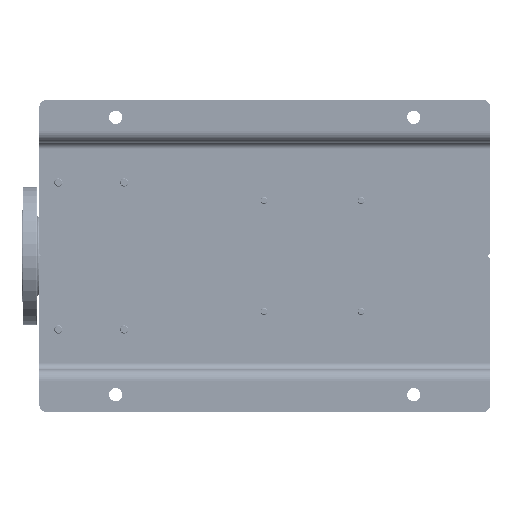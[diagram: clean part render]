
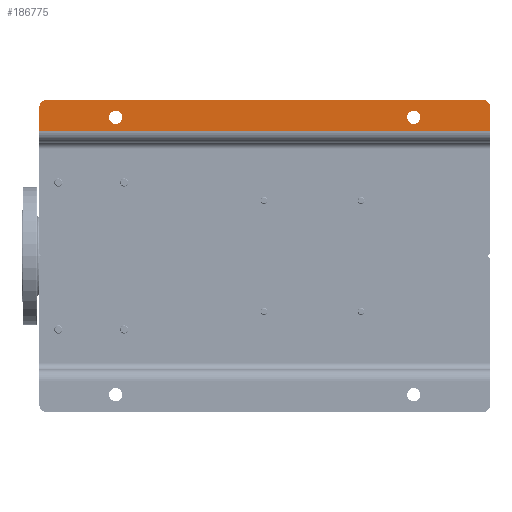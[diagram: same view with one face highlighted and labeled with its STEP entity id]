
A CAD part, front view. The second image highlights one B-rep face of the part: STEP entity #186775.
In plain terms, the highlighted planar face has unit normal (0, -1, 0).
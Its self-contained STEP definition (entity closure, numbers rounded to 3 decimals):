
#4269 = DIRECTION ( 'NONE',  ( 0., 0., -1. ) ) ;
#7001 = EDGE_CURVE ( 'NONE', #66714, #155749, #50495, .T. ) ;
#9170 = EDGE_CURVE ( 'NONE', #60250, #64917, #33362, .T. ) ;
#9893 = DIRECTION ( 'NONE',  ( 0., 0., -1. ) ) ;
#10768 = FACE_OUTER_BOUND ( 'NONE', #112691, .T. ) ;
#10806 = CARTESIAN_POINT ( 'NONE',  ( 415.5, 0., -540. ) ) ;
#23772 = AXIS2_PLACEMENT_3D ( 'NONE', #171543, #55525, #9893 ) ;
#31858 = DIRECTION ( 'NONE',  ( 0., 1., 0. ) ) ;
#32175 = VERTEX_POINT ( 'NONE', #50240 ) ;
#33362 = CIRCLE ( 'NONE', #57649, 9.5 ) ;
#37629 = DIRECTION ( 'NONE',  ( 0., 0., -1. ) ) ;
#39303 = FACE_BOUND ( 'NONE', #96990, .T. ) ;
#40249 = CARTESIAN_POINT ( 'NONE',  ( 389., 0., -650. ) ) ;
#41160 = ORIENTED_EDGE ( 'NONE', *, *, #83118, .T. ) ;
#44194 = CARTESIAN_POINT ( 'NONE',  ( 450., 0., -10. ) ) ;
#45635 = AXIS2_PLACEMENT_3D ( 'NONE', #78807, #149217, #178742 ) ;
#47140 = EDGE_CURVE ( 'NONE', #32175, #113569, #81013, .T. ) ;
#47772 = VERTEX_POINT ( 'NONE', #144804 ) ;
#48103 = ORIENTED_EDGE ( 'NONE', *, *, #87647, .T. ) ;
#50240 = CARTESIAN_POINT ( 'NONE',  ( 450., 0., -640. ) ) ;
#50495 = LINE ( 'NONE', #138868, #123989 ) ;
#50581 = DIRECTION ( 'NONE',  ( 0., 0., -1. ) ) ;
#50585 = LINE ( 'NONE', #123768, #76385 ) ;
#53089 = EDGE_CURVE ( 'NONE', #155749, #32175, #99669, .T. ) ;
#55525 = DIRECTION ( 'NONE',  ( 0., -1., 0. ) ) ;
#57649 = AXIS2_PLACEMENT_3D ( 'NONE', #123206, #92849, #37629 ) ;
#58408 = VERTEX_POINT ( 'NONE', #140196 ) ;
#60250 = VERTEX_POINT ( 'NONE', #10806 ) ;
#62694 = ORIENTED_EDGE ( 'NONE', *, *, #7001, .T. ) ;
#64917 = VERTEX_POINT ( 'NONE', #83151 ) ;
#66714 = VERTEX_POINT ( 'NONE', #102107 ) ;
#67715 = DIRECTION ( 'NONE',  ( 0., 0., 1. ) ) ;
#68762 = DIRECTION ( 'NONE',  ( 0., -1., 0. ) ) ;
#73449 = EDGE_LOOP ( 'NONE', ( #158694, #126876 ) ) ;
#76385 = VECTOR ( 'NONE', #137099, 1000. ) ;
#78193 = CARTESIAN_POINT ( 'NONE',  ( 425., 0., -110. ) ) ;
#78807 = CARTESIAN_POINT ( 'NONE',  ( 425., 0., -540. ) ) ;
#80061 = ORIENTED_EDGE ( 'NONE', *, *, #47140, .T. ) ;
#81013 = LINE ( 'NONE', #185633, #152725 ) ;
#83118 = EDGE_CURVE ( 'NONE', #47772, #87180, #123283, .T. ) ;
#83151 = CARTESIAN_POINT ( 'NONE',  ( 434.5, 0., -540. ) ) ;
#83343 = EDGE_CURVE ( 'NONE', #115931, #66714, #124686, .T. ) ;
#84184 = AXIS2_PLACEMENT_3D ( 'NONE', #145273, #144313, #88222 ) ;
#87180 = VERTEX_POINT ( 'NONE', #102946 ) ;
#87647 = EDGE_CURVE ( 'NONE', #113569, #58408, #99400, .T. ) ;
#87837 = CIRCLE ( 'NONE', #93942, 9.5 ) ;
#88222 = DIRECTION ( 'NONE',  ( 0., 0., -1. ) ) ;
#92849 = DIRECTION ( 'NONE',  ( 0., 1., 0. ) ) ;
#93692 = EDGE_CURVE ( 'NONE', #115931, #58408, #50585, .T. ) ;
#93942 = AXIS2_PLACEMENT_3D ( 'NONE', #175487, #31858, #4269 ) ;
#96021 = AXIS2_PLACEMENT_3D ( 'NONE', #78193, #120053, #50581 ) ;
#96990 = EDGE_LOOP ( 'NONE', ( #157593, #41160 ) ) ;
#99400 = CIRCLE ( 'NONE', #84184, 10. ) ;
#99669 = CIRCLE ( 'NONE', #23772, 10. ) ;
#102107 = CARTESIAN_POINT ( 'NONE',  ( 405., 0., -650. ) ) ;
#102946 = CARTESIAN_POINT ( 'NONE',  ( 415.5, 0., -110. ) ) ;
#106644 = DIRECTION ( 'NONE',  ( 1., 0., 0. ) ) ;
#109188 = CARTESIAN_POINT ( 'NONE',  ( 405., 0., 0. ) ) ;
#111089 = VECTOR ( 'NONE', #182761, 1000. ) ;
#112691 = EDGE_LOOP ( 'NONE', ( #155007, #133963, #62694, #127011, #80061, #48103 ) ) ;
#113270 = CARTESIAN_POINT ( 'NONE',  ( 405., 0., -650. ) ) ;
#113440 = DIRECTION ( 'NONE',  ( 0., 0., -1. ) ) ;
#113569 = VERTEX_POINT ( 'NONE', #44194 ) ;
#115931 = VERTEX_POINT ( 'NONE', #109188 ) ;
#120053 = DIRECTION ( 'NONE',  ( 0., 1., 0. ) ) ;
#123206 = CARTESIAN_POINT ( 'NONE',  ( 425., 0., -540. ) ) ;
#123283 = CIRCLE ( 'NONE', #96021, 9.5 ) ;
#123768 = CARTESIAN_POINT ( 'NONE',  ( 389., 0., 0. ) ) ;
#123989 = VECTOR ( 'NONE', #106644, 1000. ) ;
#124686 = LINE ( 'NONE', #113270, #111089 ) ;
#125692 = CARTESIAN_POINT ( 'NONE',  ( 440., 0., -650. ) ) ;
#126876 = ORIENTED_EDGE ( 'NONE', *, *, #182368, .T. ) ;
#127011 = ORIENTED_EDGE ( 'NONE', *, *, #53089, .T. ) ;
#128621 = FACE_BOUND ( 'NONE', #73449, .T. ) ;
#133963 = ORIENTED_EDGE ( 'NONE', *, *, #83343, .T. ) ;
#137099 = DIRECTION ( 'NONE',  ( 1., 0., 0. ) ) ;
#138868 = CARTESIAN_POINT ( 'NONE',  ( 389., 0., -650. ) ) ;
#140196 = CARTESIAN_POINT ( 'NONE',  ( 440., 0., 0. ) ) ;
#142760 = CIRCLE ( 'NONE', #45635, 9.5 ) ;
#144313 = DIRECTION ( 'NONE',  ( 0., -1., 0. ) ) ;
#144804 = CARTESIAN_POINT ( 'NONE',  ( 434.5, 0., -110. ) ) ;
#145273 = CARTESIAN_POINT ( 'NONE',  ( 440., 0., -10. ) ) ;
#149217 = DIRECTION ( 'NONE',  ( 0., 1., 0. ) ) ;
#152725 = VECTOR ( 'NONE', #67715, 1000. ) ;
#155007 = ORIENTED_EDGE ( 'NONE', *, *, #93692, .F. ) ;
#155749 = VERTEX_POINT ( 'NONE', #125692 ) ;
#157593 = ORIENTED_EDGE ( 'NONE', *, *, #181109, .T. ) ;
#158694 = ORIENTED_EDGE ( 'NONE', *, *, #9170, .T. ) ;
#170539 = PLANE ( 'NONE',  #178060 ) ;
#171543 = CARTESIAN_POINT ( 'NONE',  ( 440., 0., -640. ) ) ;
#175487 = CARTESIAN_POINT ( 'NONE',  ( 425., 0., -110. ) ) ;
#178060 = AXIS2_PLACEMENT_3D ( 'NONE', #40249, #68762, #113440 ) ;
#178742 = DIRECTION ( 'NONE',  ( 0., 0., -1. ) ) ;
#181109 = EDGE_CURVE ( 'NONE', #87180, #47772, #87837, .T. ) ;
#182368 = EDGE_CURVE ( 'NONE', #64917, #60250, #142760, .T. ) ;
#182761 = DIRECTION ( 'NONE',  ( 0., 0., -1. ) ) ;
#185633 = CARTESIAN_POINT ( 'NONE',  ( 450., 0., -650. ) ) ;
#186775 = ADVANCED_FACE ( 'NONE', ( #39303, #128621, #10768 ), #170539, .T. ) ;
